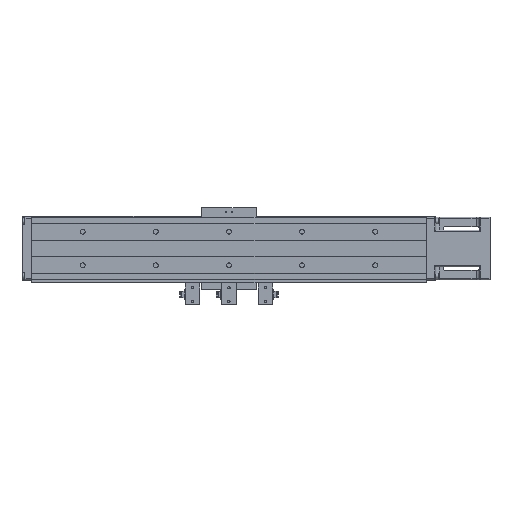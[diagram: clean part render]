
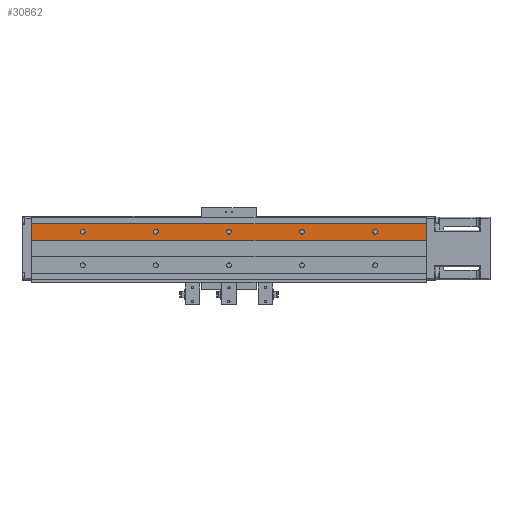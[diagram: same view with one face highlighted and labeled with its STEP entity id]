
A CAD part, front view. The second image highlights one B-rep face of the part: STEP entity #30862.
In plain terms, the highlighted planar face has unit normal (0, -1, 0).
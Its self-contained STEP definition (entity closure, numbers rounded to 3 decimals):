
#199 = VERTEX_POINT ( 'NONE', #29500 ) ;
#392 = EDGE_LOOP ( 'NONE', ( #26843, #40364 ) ) ;
#662 = EDGE_CURVE ( 'NONE', #15882, #29774, #30359, .T. ) ;
#1221 = AXIS2_PLACEMENT_3D ( 'NONE', #3410, #26462, #37226 ) ;
#1465 = DIRECTION ( 'NONE',  ( 0., 0., -1. ) ) ;
#2591 = CARTESIAN_POINT ( 'NONE',  ( -320., -32., 5.95 ) ) ;
#2656 = DIRECTION ( 'NONE',  ( 0., 0., 1. ) ) ;
#2902 = VERTEX_POINT ( 'NONE', #32910 ) ;
#3009 = VECTOR ( 'NONE', #33155, 1000. ) ;
#3387 = AXIS2_PLACEMENT_3D ( 'NONE', #10245, #36599, #20639 ) ;
#3410 = CARTESIAN_POINT ( 'NONE',  ( 220., -32., -33.6 ) ) ;
#3801 = VERTEX_POINT ( 'NONE', #6936 ) ;
#4193 = FACE_BOUND ( 'NONE', #21383, .T. ) ;
#4210 = AXIS2_PLACEMENT_3D ( 'NONE', #13257, #23078, #10109 ) ;
#4960 = ORIENTED_EDGE ( 'NONE', *, *, #24287, .T. ) ;
#5410 = ORIENTED_EDGE ( 'NONE', *, *, #16117, .T. ) ;
#5976 = CARTESIAN_POINT ( 'NONE',  ( 150., -32., 19.7 ) ) ;
#6300 = CARTESIAN_POINT ( 'NONE',  ( -50., -32., 23. ) ) ;
#6936 = CARTESIAN_POINT ( 'NONE',  ( 220., -32., 34. ) ) ;
#7415 = CARTESIAN_POINT ( 'NONE',  ( -150., -32., 19.7 ) ) ;
#7473 = CARTESIAN_POINT ( 'NONE',  ( 150., -32., 23. ) ) ;
#7709 = VECTOR ( 'NONE', #18978, 1000. ) ;
#8905 = DIRECTION ( 'NONE',  ( 0., 1., 0. ) ) ;
#9042 = EDGE_CURVE ( 'NONE', #22761, #28746, #13929, .T. ) ;
#9240 = EDGE_CURVE ( 'NONE', #2902, #21284, #21153, .T. ) ;
#9250 = CIRCLE ( 'NONE', #40846, 3.3 ) ;
#9689 = LINE ( 'NONE', #14707, #14295 ) ;
#9698 = CARTESIAN_POINT ( 'NONE',  ( 220., -32., 11.5 ) ) ;
#10051 = EDGE_LOOP ( 'NONE', ( #38496, #40431 ) ) ;
#10067 = CARTESIAN_POINT ( 'NONE',  ( 150., -32., 26.3 ) ) ;
#10109 = DIRECTION ( 'NONE',  ( 0., 0., -1. ) ) ;
#10211 = CARTESIAN_POINT ( 'NONE',  ( 220., -32., 11.5 ) ) ;
#10245 = CARTESIAN_POINT ( 'NONE',  ( -50., -32., 23. ) ) ;
#10657 = DIRECTION ( 'NONE',  ( 0., 1., 0. ) ) ;
#10668 = EDGE_CURVE ( 'NONE', #28746, #22761, #42538, .T. ) ;
#10881 = CARTESIAN_POINT ( 'NONE',  ( -250., -32., 23. ) ) ;
#11756 = LINE ( 'NONE', #2591, #3009 ) ;
#11923 = DIRECTION ( 'NONE',  ( 0., 1., 0. ) ) ;
#12375 = EDGE_LOOP ( 'NONE', ( #17746, #15750 ) ) ;
#12551 = VERTEX_POINT ( 'NONE', #40948 ) ;
#13064 = EDGE_CURVE ( 'NONE', #26338, #199, #20277, .T. ) ;
#13243 = CARTESIAN_POINT ( 'NONE',  ( -320., -32., 11.5 ) ) ;
#13257 = CARTESIAN_POINT ( 'NONE',  ( 50., -32., 23. ) ) ;
#13929 = CIRCLE ( 'NONE', #3387, 3.3 ) ;
#13981 = CARTESIAN_POINT ( 'NONE',  ( -150., -32., 26.3 ) ) ;
#14295 = VECTOR ( 'NONE', #17785, 1000. ) ;
#14707 = CARTESIAN_POINT ( 'NONE',  ( -520., -32., 34. ) ) ;
#14899 = EDGE_CURVE ( 'NONE', #32983, #39926, #15971, .T. ) ;
#15577 = CIRCLE ( 'NONE', #4210, 3.3 ) ;
#15689 = CARTESIAN_POINT ( 'NONE',  ( -250., -32., 23. ) ) ;
#15717 = EDGE_CURVE ( 'NONE', #12551, #3801, #9689, .T. ) ;
#15750 = ORIENTED_EDGE ( 'NONE', *, *, #13064, .T. ) ;
#15882 = VERTEX_POINT ( 'NONE', #7415 ) ;
#15971 = CIRCLE ( 'NONE', #27748, 3.3 ) ;
#16117 = EDGE_CURVE ( 'NONE', #39634, #3801, #18942, .T. ) ;
#16934 = ORIENTED_EDGE ( 'NONE', *, *, #662, .T. ) ;
#17631 = DIRECTION ( 'NONE',  ( 0., 1., 0. ) ) ;
#17746 = ORIENTED_EDGE ( 'NONE', *, *, #28820, .T. ) ;
#17785 = DIRECTION ( 'NONE',  ( 1., 0., 0. ) ) ;
#18363 = VERTEX_POINT ( 'NONE', #13243 ) ;
#18604 = AXIS2_PLACEMENT_3D ( 'NONE', #15689, #8905, #19326 ) ;
#18942 = LINE ( 'NONE', #9698, #41572 ) ;
#18978 = DIRECTION ( 'NONE',  ( 1., 0., 0. ) ) ;
#19309 = ORIENTED_EDGE ( 'NONE', *, *, #15717, .F. ) ;
#19326 = DIRECTION ( 'NONE',  ( 0., 0., -1. ) ) ;
#19332 = ORIENTED_EDGE ( 'NONE', *, *, #36564, .T. ) ;
#20277 = CIRCLE ( 'NONE', #30179, 3.3 ) ;
#20447 = AXIS2_PLACEMENT_3D ( 'NONE', #6300, #29375, #29240 ) ;
#20467 = DIRECTION ( 'NONE',  ( 0., 0., -1. ) ) ;
#20639 = DIRECTION ( 'NONE',  ( 0., 0., -1. ) ) ;
#20669 = ORIENTED_EDGE ( 'NONE', *, *, #32884, .T. ) ;
#21153 = CIRCLE ( 'NONE', #18604, 3.3 ) ;
#21284 = VERTEX_POINT ( 'NONE', #32331 ) ;
#21383 = EDGE_LOOP ( 'NONE', ( #26330, #19332 ) ) ;
#21882 = CARTESIAN_POINT ( 'NONE',  ( 50., -32., 23. ) ) ;
#21934 = CARTESIAN_POINT ( 'NONE',  ( -50., -32., 26.3 ) ) ;
#22022 = CIRCLE ( 'NONE', #31427, 3.3 ) ;
#22627 = EDGE_CURVE ( 'NONE', #39926, #32983, #39579, .T. ) ;
#22761 = VERTEX_POINT ( 'NONE', #21934 ) ;
#23078 = DIRECTION ( 'NONE',  ( 0., 1., 0. ) ) ;
#23148 = PLANE ( 'NONE',  #1221 ) ;
#24287 = EDGE_CURVE ( 'NONE', #18363, #39634, #42173, .T. ) ;
#24679 = CARTESIAN_POINT ( 'NONE',  ( 150., -32., 23. ) ) ;
#26257 = CARTESIAN_POINT ( 'NONE',  ( -50., -32., 19.7 ) ) ;
#26330 = ORIENTED_EDGE ( 'NONE', *, *, #9240, .T. ) ;
#26338 = VERTEX_POINT ( 'NONE', #26367 ) ;
#26360 = FACE_BOUND ( 'NONE', #10051, .T. ) ;
#26367 = CARTESIAN_POINT ( 'NONE',  ( 50., -32., 26.3 ) ) ;
#26462 = DIRECTION ( 'NONE',  ( 0., -1., 0. ) ) ;
#26553 = AXIS2_PLACEMENT_3D ( 'NONE', #39718, #29693, #29403 ) ;
#26843 = ORIENTED_EDGE ( 'NONE', *, *, #10668, .T. ) ;
#27748 = AXIS2_PLACEMENT_3D ( 'NONE', #7473, #10657, #20467 ) ;
#28746 = VERTEX_POINT ( 'NONE', #26257 ) ;
#28820 = EDGE_CURVE ( 'NONE', #199, #26338, #15577, .T. ) ;
#29240 = DIRECTION ( 'NONE',  ( 0., 0., -1. ) ) ;
#29375 = DIRECTION ( 'NONE',  ( 0., 1., 0. ) ) ;
#29403 = DIRECTION ( 'NONE',  ( 0., 0., -1. ) ) ;
#29500 = CARTESIAN_POINT ( 'NONE',  ( 50., -32., 19.7 ) ) ;
#29693 = DIRECTION ( 'NONE',  ( 0., 1., 0. ) ) ;
#29774 = VERTEX_POINT ( 'NONE', #13981 ) ;
#29802 = DIRECTION ( 'NONE',  ( 0., 0., -1. ) ) ;
#29950 = CARTESIAN_POINT ( 'NONE',  ( -150., -32., 23. ) ) ;
#30179 = AXIS2_PLACEMENT_3D ( 'NONE', #21882, #11923, #38703 ) ;
#30359 = CIRCLE ( 'NONE', #26553, 3.3 ) ;
#30817 = EDGE_LOOP ( 'NONE', ( #16934, #40164 ) ) ;
#30862 = ADVANCED_FACE ( 'NONE', ( #31543, #4193, #34100, #37162, #35132, #26360 ), #23148, .T. ) ;
#31427 = AXIS2_PLACEMENT_3D ( 'NONE', #29950, #39969, #29802 ) ;
#31543 = FACE_OUTER_BOUND ( 'NONE', #42669, .T. ) ;
#32331 = CARTESIAN_POINT ( 'NONE',  ( -250., -32., 26.3 ) ) ;
#32884 = EDGE_CURVE ( 'NONE', #12551, #18363, #11756, .T. ) ;
#32910 = CARTESIAN_POINT ( 'NONE',  ( -250., -32., 19.7 ) ) ;
#32983 = VERTEX_POINT ( 'NONE', #10067 ) ;
#33155 = DIRECTION ( 'NONE',  ( 0., 0., -1. ) ) ;
#33446 = EDGE_CURVE ( 'NONE', #29774, #15882, #22022, .T. ) ;
#33932 = DIRECTION ( 'NONE',  ( 0., 1., 0. ) ) ;
#34100 = FACE_BOUND ( 'NONE', #30817, .T. ) ;
#35132 = FACE_BOUND ( 'NONE', #12375, .T. ) ;
#36560 = AXIS2_PLACEMENT_3D ( 'NONE', #24679, #17631, #37210 ) ;
#36564 = EDGE_CURVE ( 'NONE', #21284, #2902, #9250, .T. ) ;
#36599 = DIRECTION ( 'NONE',  ( 0., 1., 0. ) ) ;
#37162 = FACE_BOUND ( 'NONE', #392, .T. ) ;
#37210 = DIRECTION ( 'NONE',  ( 0., 0., -1. ) ) ;
#37226 = DIRECTION ( 'NONE',  ( -1., 0., 0. ) ) ;
#38496 = ORIENTED_EDGE ( 'NONE', *, *, #22627, .T. ) ;
#38703 = DIRECTION ( 'NONE',  ( 0., 0., -1. ) ) ;
#38830 = CARTESIAN_POINT ( 'NONE',  ( -520., -32., 11.5 ) ) ;
#39579 = CIRCLE ( 'NONE', #36560, 3.3 ) ;
#39634 = VERTEX_POINT ( 'NONE', #10211 ) ;
#39718 = CARTESIAN_POINT ( 'NONE',  ( -150., -32., 23. ) ) ;
#39926 = VERTEX_POINT ( 'NONE', #5976 ) ;
#39969 = DIRECTION ( 'NONE',  ( 0., 1., 0. ) ) ;
#40164 = ORIENTED_EDGE ( 'NONE', *, *, #33446, .T. ) ;
#40364 = ORIENTED_EDGE ( 'NONE', *, *, #9042, .T. ) ;
#40431 = ORIENTED_EDGE ( 'NONE', *, *, #14899, .T. ) ;
#40846 = AXIS2_PLACEMENT_3D ( 'NONE', #10881, #33932, #1465 ) ;
#40948 = CARTESIAN_POINT ( 'NONE',  ( -320., -32., 34. ) ) ;
#41572 = VECTOR ( 'NONE', #2656, 1000. ) ;
#42173 = LINE ( 'NONE', #38830, #7709 ) ;
#42538 = CIRCLE ( 'NONE', #20447, 3.3 ) ;
#42669 = EDGE_LOOP ( 'NONE', ( #20669, #4960, #5410, #19309 ) ) ;
